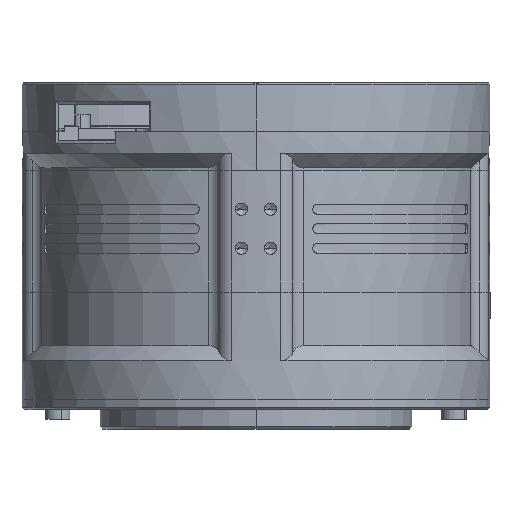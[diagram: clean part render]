
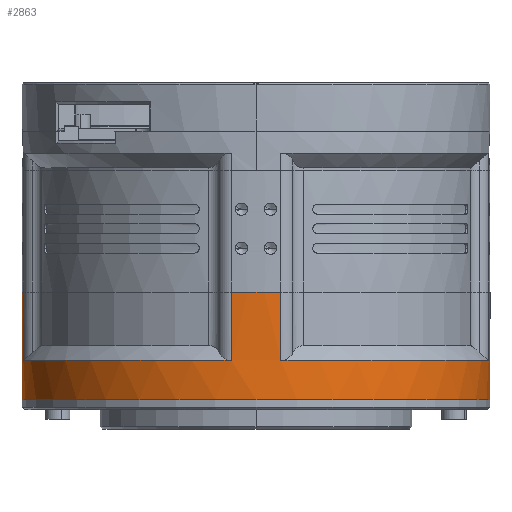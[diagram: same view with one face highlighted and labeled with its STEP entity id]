
A CAD part, front view. The second image highlights one B-rep face of the part: STEP entity #2863.
In plain terms, the highlighted cylindrical face has radius 48 mm (diameter 96 mm), a partial arc.
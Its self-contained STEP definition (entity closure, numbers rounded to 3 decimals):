
#981 = EDGE_CURVE ( 'NONE', #16062, #16402, #15471, .T. ) ;
#1139 = CIRCLE ( 'NONE', #39564, 48. ) ;
#1185 = DIRECTION ( 'NONE',  ( 0., 0., 1. ) ) ;
#1472 = LINE ( 'NONE', #1933, #41112 ) ;
#1933 = CARTESIAN_POINT ( 'NONE',  ( 0., 23.1, 48. ) ) ;
#1998 = LINE ( 'NONE', #19877, #16599 ) ;
#2863 = ADVANCED_FACE ( 'NONE', ( #29887 ), #37094, .T. ) ;
#3156 = VERTEX_POINT ( 'NONE', #43729 ) ;
#3421 = ORIENTED_EDGE ( 'NONE', *, *, #43534, .T. ) ;
#3492 = VECTOR ( 'NONE', #14700, 1000. ) ;
#3584 = EDGE_CURVE ( 'NONE', #3156, #44727, #31565, .T. ) ;
#3613 = ORIENTED_EDGE ( 'NONE', *, *, #15306, .T. ) ;
#4297 = DIRECTION ( 'NONE',  ( 0., -1., 0. ) ) ;
#4896 = DIRECTION ( 'NONE',  ( 0., 0., 1. ) ) ;
#4957 = CARTESIAN_POINT ( 'NONE',  ( 0., 23.1, 0. ) ) ;
#5286 = VERTEX_POINT ( 'NONE', #40001 ) ;
#5802 = DIRECTION ( 'NONE',  ( 0., -1., 0. ) ) ;
#5922 = DIRECTION ( 'NONE',  ( 0., 0., 1. ) ) ;
#6395 = ORIENTED_EDGE ( 'NONE', *, *, #19412, .T. ) ;
#6969 = DIRECTION ( 'NONE',  ( 0., 1., 0. ) ) ;
#7398 = VERTEX_POINT ( 'NONE', #20867 ) ;
#7794 = DIRECTION ( 'NONE',  ( 0., 0., 1. ) ) ;
#8133 = ORIENTED_EDGE ( 'NONE', *, *, #37874, .F. ) ;
#8303 = CIRCLE ( 'NONE', #10543, 48. ) ;
#8414 = DIRECTION ( 'NONE',  ( 0., 0., -1. ) ) ;
#10259 = CARTESIAN_POINT ( 'NONE',  ( -47.729, 9.1, -5.093 ) ) ;
#10543 = AXIS2_PLACEMENT_3D ( 'NONE', #32162, #6969, #31697 ) ;
#10986 = CARTESIAN_POINT ( 'NONE',  ( -5.093, 9.1, 47.729 ) ) ;
#11135 = CARTESIAN_POINT ( 'NONE',  ( 0., 23.1, -48. ) ) ;
#12360 = DIRECTION ( 'NONE',  ( 0., -1., 0. ) ) ;
#13517 = DIRECTION ( 'NONE',  ( 0., -1., 0. ) ) ;
#14700 = DIRECTION ( 'NONE',  ( 0., 1., 0. ) ) ;
#15109 = CARTESIAN_POINT ( 'NONE',  ( 0., 1., 48. ) ) ;
#15306 = EDGE_CURVE ( 'NONE', #21509, #28618, #18814, .T. ) ;
#15471 = CIRCLE ( 'NONE', #38314, 48. ) ;
#15554 = CARTESIAN_POINT ( 'NONE',  ( -47.729, 23.1, 5.093 ) ) ;
#15628 = EDGE_CURVE ( 'NONE', #16062, #23172, #1998, .T. ) ;
#16062 = VERTEX_POINT ( 'NONE', #34369 ) ;
#16091 = VECTOR ( 'NONE', #21392, 1000. ) ;
#16155 = DIRECTION ( 'NONE',  ( 0., -1., 0. ) ) ;
#16402 = VERTEX_POINT ( 'NONE', #15554 ) ;
#16599 = VECTOR ( 'NONE', #16155, 1000. ) ;
#16788 = EDGE_CURVE ( 'NONE', #23172, #29054, #1139, .T. ) ;
#17102 = EDGE_CURVE ( 'NONE', #44657, #28618, #1472, .T. ) ;
#18199 = CARTESIAN_POINT ( 'NONE',  ( -47.729, 23.1, 5.093 ) ) ;
#18663 = LINE ( 'NONE', #18199, #3492 ) ;
#18814 = CIRCLE ( 'NONE', #31321, 48. ) ;
#19412 = EDGE_CURVE ( 'NONE', #3156, #21509, #28673, .T. ) ;
#19417 = ORIENTED_EDGE ( 'NONE', *, *, #17102, .F. ) ;
#19623 = DIRECTION ( 'NONE',  ( 0., -1., 0. ) ) ;
#19877 = CARTESIAN_POINT ( 'NONE',  ( -47.729, 23.1, -5.093 ) ) ;
#19970 = ORIENTED_EDGE ( 'NONE', *, *, #34203, .T. ) ;
#20867 = CARTESIAN_POINT ( 'NONE',  ( -47.729, 9.1, 5.093 ) ) ;
#21213 = AXIS2_PLACEMENT_3D ( 'NONE', #43832, #19623, #8414 ) ;
#21392 = DIRECTION ( 'NONE',  ( 0., -1., 0. ) ) ;
#21509 = VERTEX_POINT ( 'NONE', #40743 ) ;
#21515 = DIRECTION ( 'NONE',  ( 0., 1., 0. ) ) ;
#22051 = CARTESIAN_POINT ( 'NONE',  ( -5.093, 23.1, -47.729 ) ) ;
#22252 = CIRCLE ( 'NONE', #39174, 48. ) ;
#22260 = VERTEX_POINT ( 'NONE', #10986 ) ;
#22712 = AXIS2_PLACEMENT_3D ( 'NONE', #39001, #21515, #7794 ) ;
#23172 = VERTEX_POINT ( 'NONE', #10259 ) ;
#25996 = LINE ( 'NONE', #36367, #26935 ) ;
#26712 = CARTESIAN_POINT ( 'NONE',  ( 0., 9.1, 0. ) ) ;
#26935 = VECTOR ( 'NONE', #4297, 1000. ) ;
#27561 = ORIENTED_EDGE ( 'NONE', *, *, #28172, .T. ) ;
#28172 = EDGE_CURVE ( 'NONE', #7398, #16402, #18663, .T. ) ;
#28618 = VERTEX_POINT ( 'NONE', #15109 ) ;
#28673 = LINE ( 'NONE', #11135, #16091 ) ;
#29054 = VERTEX_POINT ( 'NONE', #43020 ) ;
#29887 = FACE_OUTER_BOUND ( 'NONE', #38215, .T. ) ;
#30904 = CARTESIAN_POINT ( 'NONE',  ( 0., 23.1, 48. ) ) ;
#31061 = ORIENTED_EDGE ( 'NONE', *, *, #16788, .T. ) ;
#31321 = AXIS2_PLACEMENT_3D ( 'NONE', #43774, #40064, #1185 ) ;
#31565 = CIRCLE ( 'NONE', #22712, 48. ) ;
#31697 = DIRECTION ( 'NONE',  ( 0., 0., 1. ) ) ;
#32162 = CARTESIAN_POINT ( 'NONE',  ( 0., 23.1, 0. ) ) ;
#34014 = ORIENTED_EDGE ( 'NONE', *, *, #3584, .F. ) ;
#34203 = EDGE_CURVE ( 'NONE', #29054, #44727, #39128, .T. ) ;
#34369 = CARTESIAN_POINT ( 'NONE',  ( -47.729, 23.1, -5.093 ) ) ;
#34947 = EDGE_CURVE ( 'NONE', #22260, #7398, #22252, .T. ) ;
#36114 = DIRECTION ( 'NONE',  ( 0., 1., 0. ) ) ;
#36367 = CARTESIAN_POINT ( 'NONE',  ( -5.093, 23.1, 47.729 ) ) ;
#36834 = DIRECTION ( 'NONE',  ( 0., 1., 0. ) ) ;
#37094 = CYLINDRICAL_SURFACE ( 'NONE', #21213, 48. ) ;
#37874 = EDGE_CURVE ( 'NONE', #5286, #44657, #8303, .T. ) ;
#38215 = EDGE_LOOP ( 'NONE', ( #19417, #8133, #3421, #43396, #27561, #42255, #43487, #31061, #19970, #34014, #6395, #3613 ) ) ;
#38314 = AXIS2_PLACEMENT_3D ( 'NONE', #4957, #36834, #41705 ) ;
#39001 = CARTESIAN_POINT ( 'NONE',  ( 0., 23.1, 0. ) ) ;
#39128 = LINE ( 'NONE', #22051, #45108 ) ;
#39174 = AXIS2_PLACEMENT_3D ( 'NONE', #40930, #5802, #4896 ) ;
#39564 = AXIS2_PLACEMENT_3D ( 'NONE', #26712, #13517, #5922 ) ;
#40001 = CARTESIAN_POINT ( 'NONE',  ( -5.093, 23.1, 47.729 ) ) ;
#40064 = DIRECTION ( 'NONE',  ( 0., 1., 0. ) ) ;
#40743 = CARTESIAN_POINT ( 'NONE',  ( 0., 1., -48. ) ) ;
#40930 = CARTESIAN_POINT ( 'NONE',  ( 0., 9.1, 0. ) ) ;
#41112 = VECTOR ( 'NONE', #12360, 1000. ) ;
#41705 = DIRECTION ( 'NONE',  ( 0., 0., 1. ) ) ;
#42255 = ORIENTED_EDGE ( 'NONE', *, *, #981, .F. ) ;
#43020 = CARTESIAN_POINT ( 'NONE',  ( -5.093, 9.1, -47.729 ) ) ;
#43121 = CARTESIAN_POINT ( 'NONE',  ( -5.093, 23.1, -47.729 ) ) ;
#43396 = ORIENTED_EDGE ( 'NONE', *, *, #34947, .T. ) ;
#43487 = ORIENTED_EDGE ( 'NONE', *, *, #15628, .T. ) ;
#43534 = EDGE_CURVE ( 'NONE', #5286, #22260, #25996, .T. ) ;
#43729 = CARTESIAN_POINT ( 'NONE',  ( 0., 23.1, -48. ) ) ;
#43774 = CARTESIAN_POINT ( 'NONE',  ( 0., 1., 0. ) ) ;
#43832 = CARTESIAN_POINT ( 'NONE',  ( 0., 23.1, 0. ) ) ;
#44657 = VERTEX_POINT ( 'NONE', #30904 ) ;
#44727 = VERTEX_POINT ( 'NONE', #43121 ) ;
#45108 = VECTOR ( 'NONE', #36114, 1000. ) ;
